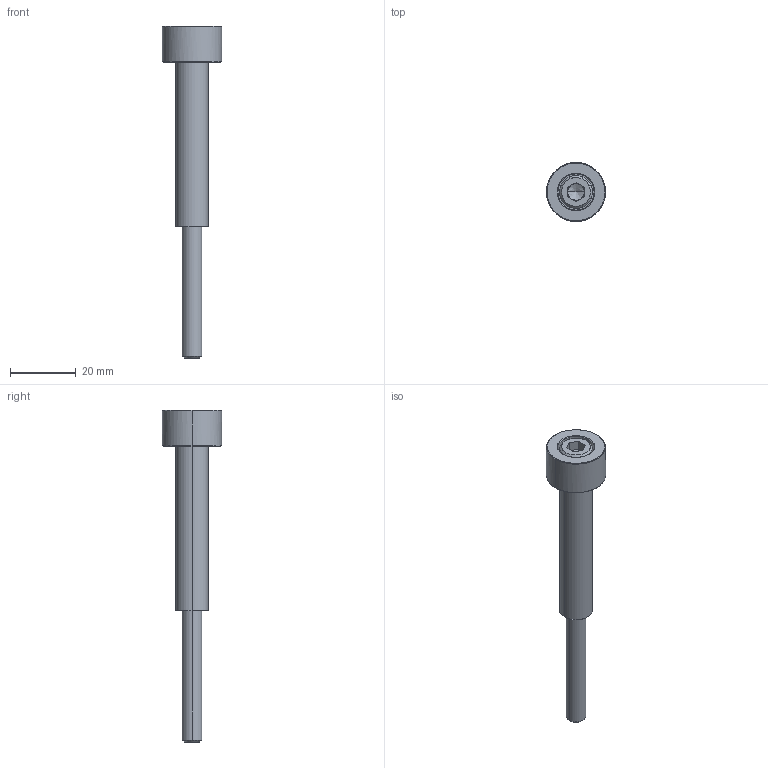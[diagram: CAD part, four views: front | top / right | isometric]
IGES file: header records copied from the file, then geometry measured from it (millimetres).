
Global section: file name: E:\UnigraphicsGraphicData\MISUMI_PRESS-PARTS\IGES\3d_sbjh10-50-95_05048_r00.igs; native system: NX V5.0; preprocessor: UGS NX IGES V5.0; author: MISUMI; date: 20110105.162425; units: millimetre
Bounding box: 18 x 17.98 x 101 mm (x, y, z)
Surface area: 6144.9 mm2 (no closed solid volume)
Topology: 0 solids, 0 shells, 48 faces, 276 edges, 274 vertices
Faces by surface type: bspline 48
